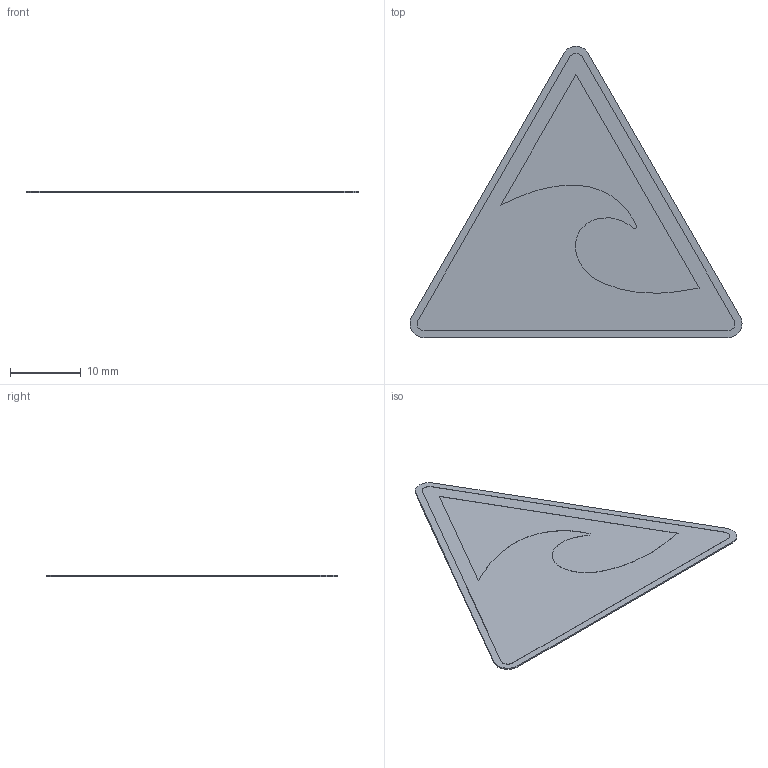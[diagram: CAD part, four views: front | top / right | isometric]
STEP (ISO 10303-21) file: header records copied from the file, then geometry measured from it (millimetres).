
FILE_DESCRIPTION (( 'STEP AP214' ), '1' );
FILE_NAME ('W056_Warnung vor Tsunami-gefährdetem Bereich.STEP', '2022-03-05T05:23:13', ( '' ), ( '' ), 'SwSTEP 2.0', 'SolidWorks 2021', '' );
FILE_SCHEMA (( 'AUTOMOTIVE_DESIGN' ));
Length unit declared in the file: millimetre
Products named in the file (1): W056_Warnung vor Tsunami-gefährdetem Bereich
Bounding box: 47.07 x 41.3 x 0.22 mm (x, y, z)
Volume: 227.4 mm3; surface area: 2181.9 mm2
Topology: 1 solids, 1 shells, 69 faces, 195 edges, 130 vertices
Faces by surface type: plane 60, cylinder 9
Entity records: 2351 total; most frequent: CARTESIAN_POINT 395, ORIENTED_EDGE 390, DIRECTION 353, EDGE_CURVE 195, LINE 177, VECTOR 177, VERTEX_POINT 130, AXIS2_PLACEMENT_3D 88
